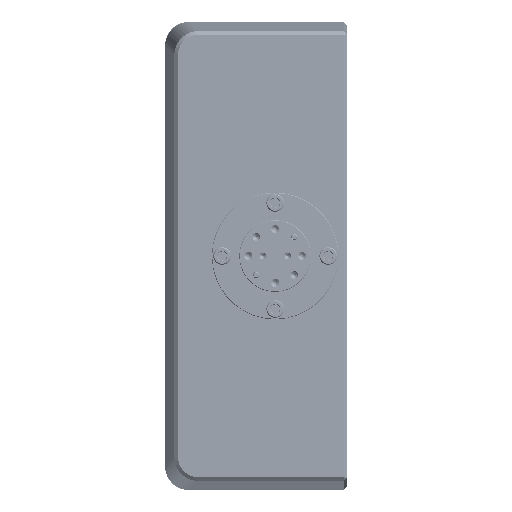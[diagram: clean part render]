
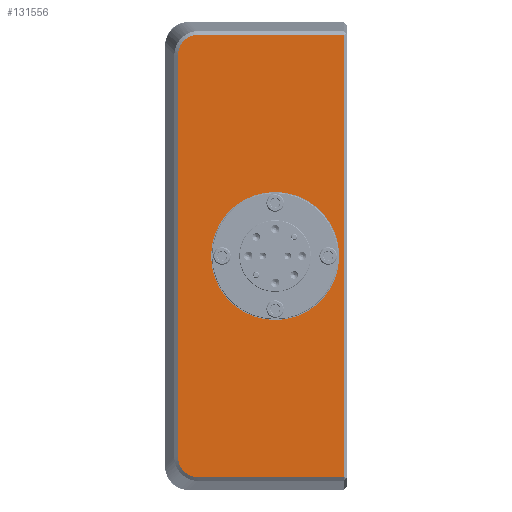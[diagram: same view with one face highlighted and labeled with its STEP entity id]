
A CAD part, left-side view. The second image highlights one B-rep face of the part: STEP entity #131556.
In plain terms, the highlighted planar face has unit normal (-1, 0, 0).
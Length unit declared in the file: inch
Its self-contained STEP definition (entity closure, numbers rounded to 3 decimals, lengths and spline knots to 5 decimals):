
#4237 = CARTESIAN_POINT ( 'NONE',  ( -2.75, 2.43786, 0. ) ) ;
#5007 = AXIS2_PLACEMENT_3D ( 'NONE', #182108, #170216, #61086 ) ;
#8009 = ORIENTED_EDGE ( 'NONE', *, *, #70120, .T. ) ;
#8352 = VECTOR ( 'NONE', #44594, 39.37008 ) ;
#11768 = ORIENTED_EDGE ( 'NONE', *, *, #107319, .T. ) ;
#12596 = LINE ( 'NONE', #147321, #33821 ) ;
#12910 = CARTESIAN_POINT ( 'NONE',  ( -2.75, 3.45294, 2.13095 ) ) ;
#14477 = EDGE_LOOP ( 'NONE', ( #150972, #11768, #186411, #8009, #90017, #65445 ) ) ;
#15952 = CARTESIAN_POINT ( 'NONE',  ( -2.75, 2.63786, -2.31232 ) ) ;
#17966 = DIRECTION ( 'NONE',  ( -1., 0., 0. ) ) ;
#20725 = VERTEX_POINT ( 'NONE', #158611 ) ;
#21432 = CARTESIAN_POINT ( 'NONE',  ( -2.75, 3.24401, -2.31232 ) ) ;
#23846 = CARTESIAN_POINT ( 'NONE',  ( -2.75, 3.45293, 2.1034 ) ) ;
#25772 = CARTESIAN_POINT ( 'NONE',  ( -2.75, 3.299, 2.30689 ) ) ;
#25963 = CARTESIAN_POINT ( 'NONE',  ( -2.75, 3.37271, -2.27061 ) ) ;
#26577 = EDGE_CURVE ( 'NONE', #20725, #92286, #55100, .T. ) ;
#33821 = VECTOR ( 'NONE', #132587, 39.37008 ) ;
#37717 = CARTESIAN_POINT ( 'NONE',  ( -2.75, 3.2715, 2.31233 ) ) ;
#40939 = CARTESIAN_POINT ( 'NONE',  ( -2.75, 3.24401, 2.31232 ) ) ;
#44594 = DIRECTION ( 'NONE',  ( 0., -1., 0. ) ) ;
#49148 = EDGE_CURVE ( 'NONE', #191294, #92349, #140050, .T. ) ;
#50144 = CARTESIAN_POINT ( 'NONE',  ( -2.75, 2.43786, 0.67 ) ) ;
#51136 = DIRECTION ( 'NONE',  ( -1., 0., 0. ) ) ;
#54427 = CARTESIAN_POINT ( 'NONE',  ( -2.75, 3.4267, 2.20886 ) ) ;
#55100 = B_SPLINE_CURVE_WITH_KNOTS ( 'NONE', 3,
 ( #118371, #160687, #115458, #175603, #71326, #25963, #86155, #178507, #145920, #151742 ),
 .UNSPECIFIED., .F., .F.,
 ( 4, 2, 2, 2, 4 ),
 ( 0., 0.25, 0.5, 0.75, 1. ),
 .UNSPECIFIED. ) ;
#57859 = CARTESIAN_POINT ( 'NONE',  ( -2.75, 1.71786, 2.31232 ) ) ;
#61086 = DIRECTION ( 'NONE',  ( 0., 0., -1. ) ) ;
#62154 = CARTESIAN_POINT ( 'NONE',  ( -2.75, 1.71786, -2.31232 ) ) ;
#64000 = PLANE ( 'NONE',  #5007 ) ;
#65445 = ORIENTED_EDGE ( 'NONE', *, *, #79157, .T. ) ;
#70120 = EDGE_CURVE ( 'NONE', #98639, #190362, #133223, .T. ) ;
#71326 = CARTESIAN_POINT ( 'NONE',  ( -2.75, 3.41121, -2.2321 ) ) ;
#75384 = CARTESIAN_POINT ( 'NONE',  ( -2.75, 2.63786, 2.31232 ) ) ;
#78128 = DIRECTION ( 'NONE',  ( 0., 0., 1. ) ) ;
#79157 = EDGE_CURVE ( 'NONE', #117478, #20725, #174935, .T. ) ;
#83832 = VECTOR ( 'NONE', #178639, 39.37008 ) ;
#86155 = CARTESIAN_POINT ( 'NONE',  ( -2.75, 3.34947, -2.28609 ) ) ;
#90017 = ORIENTED_EDGE ( 'NONE', *, *, #181614, .T. ) ;
#90042 = B_SPLINE_CURVE_WITH_KNOTS ( 'NONE', 3,
 ( #172518, #37717, #25772, #131946, #159513, #130977, #54427, #114326, #12910, #23846 ),
 .UNSPECIFIED., .F., .F.,
 ( 4, 2, 2, 2, 4 ),
 ( 0., 0.25, 0.5, 0.75, 1. ),
 .UNSPECIFIED. ) ;
#92286 = VERTEX_POINT ( 'NONE', #21432 ) ;
#92349 = VERTEX_POINT ( 'NONE', #50144 ) ;
#97092 = VECTOR ( 'NONE', #161003, 39.37008 ) ;
#97350 = DIRECTION ( 'NONE',  ( 0., 0., 1. ) ) ;
#98639 = VERTEX_POINT ( 'NONE', #57859 ) ;
#99277 = CARTESIAN_POINT ( 'NONE',  ( -2.75, 3.45293, 2.1034 ) ) ;
#100416 = EDGE_LOOP ( 'NONE', ( #164197, #170885 ) ) ;
#101466 = EDGE_CURVE ( 'NONE', #116814, #98639, #12596, .T. ) ;
#107319 = EDGE_CURVE ( 'NONE', #92286, #116814, #179354, .T. ) ;
#110123 = FACE_OUTER_BOUND ( 'NONE', #14477, .T. ) ;
#111021 = CARTESIAN_POINT ( 'NONE',  ( -2.75, 2.43786, -0.67 ) ) ;
#114326 = CARTESIAN_POINT ( 'NONE',  ( -2.75, 3.4475, 2.15839 ) ) ;
#115458 = CARTESIAN_POINT ( 'NONE',  ( -2.75, 3.4475, -2.15839 ) ) ;
#116737 = CARTESIAN_POINT ( 'NONE',  ( -2.75, 3.45293, 0. ) ) ;
#116814 = VERTEX_POINT ( 'NONE', #62154 ) ;
#117478 = VERTEX_POINT ( 'NONE', #99277 ) ;
#118133 = EDGE_CURVE ( 'NONE', #92349, #191294, #157484, .T. ) ;
#118371 = CARTESIAN_POINT ( 'NONE',  ( -2.75, 3.45293, -2.1034 ) ) ;
#130977 = CARTESIAN_POINT ( 'NONE',  ( -2.75, 3.41122, 2.2321 ) ) ;
#131556 = ADVANCED_FACE ( 'NONE', ( #110123, #181157 ), #64000, .F. ) ;
#131946 = CARTESIAN_POINT ( 'NONE',  ( -2.75, 3.34947, 2.28609 ) ) ;
#132587 = DIRECTION ( 'NONE',  ( 0., 0., 1. ) ) ;
#133223 = LINE ( 'NONE', #75384, #83832 ) ;
#135586 = AXIS2_PLACEMENT_3D ( 'NONE', #4237, #17966, #78128 ) ;
#140050 = CIRCLE ( 'NONE', #187451, 0.67 ) ;
#145920 = CARTESIAN_POINT ( 'NONE',  ( -2.75, 3.27156, -2.31233 ) ) ;
#147321 = CARTESIAN_POINT ( 'NONE',  ( -2.75, 1.71786, 0. ) ) ;
#150972 = ORIENTED_EDGE ( 'NONE', *, *, #26577, .T. ) ;
#151742 = CARTESIAN_POINT ( 'NONE',  ( -2.75, 3.24401, -2.31232 ) ) ;
#157484 = CIRCLE ( 'NONE', #135586, 0.67 ) ;
#158611 = CARTESIAN_POINT ( 'NONE',  ( -2.75, 3.45293, -2.1034 ) ) ;
#159513 = CARTESIAN_POINT ( 'NONE',  ( -2.75, 3.37271, 2.2706 ) ) ;
#160687 = CARTESIAN_POINT ( 'NONE',  ( -2.75, 3.45294, -2.13089 ) ) ;
#161003 = DIRECTION ( 'NONE',  ( 0., 0., -1. ) ) ;
#164197 = ORIENTED_EDGE ( 'NONE', *, *, #118133, .F. ) ;
#170216 = DIRECTION ( 'NONE',  ( 1., 0., 0. ) ) ;
#170885 = ORIENTED_EDGE ( 'NONE', *, *, #49148, .F. ) ;
#172518 = CARTESIAN_POINT ( 'NONE',  ( -2.75, 3.24401, 2.31232 ) ) ;
#174935 = LINE ( 'NONE', #116737, #97092 ) ;
#175603 = CARTESIAN_POINT ( 'NONE',  ( -2.75, 3.4267, -2.20886 ) ) ;
#178507 = CARTESIAN_POINT ( 'NONE',  ( -2.75, 3.299, -2.30689 ) ) ;
#178639 = DIRECTION ( 'NONE',  ( 0., 1., 0. ) ) ;
#179354 = LINE ( 'NONE', #15952, #8352 ) ;
#181157 = FACE_BOUND ( 'NONE', #100416, .T. ) ;
#181614 = EDGE_CURVE ( 'NONE', #190362, #117478, #90042, .T. ) ;
#182108 = CARTESIAN_POINT ( 'NONE',  ( -2.75, 2.63786, 0. ) ) ;
#185954 = CARTESIAN_POINT ( 'NONE',  ( -2.75, 2.43786, 0. ) ) ;
#186411 = ORIENTED_EDGE ( 'NONE', *, *, #101466, .T. ) ;
#187451 = AXIS2_PLACEMENT_3D ( 'NONE', #185954, #51136, #97350 ) ;
#190362 = VERTEX_POINT ( 'NONE', #40939 ) ;
#191294 = VERTEX_POINT ( 'NONE', #111021 ) ;
